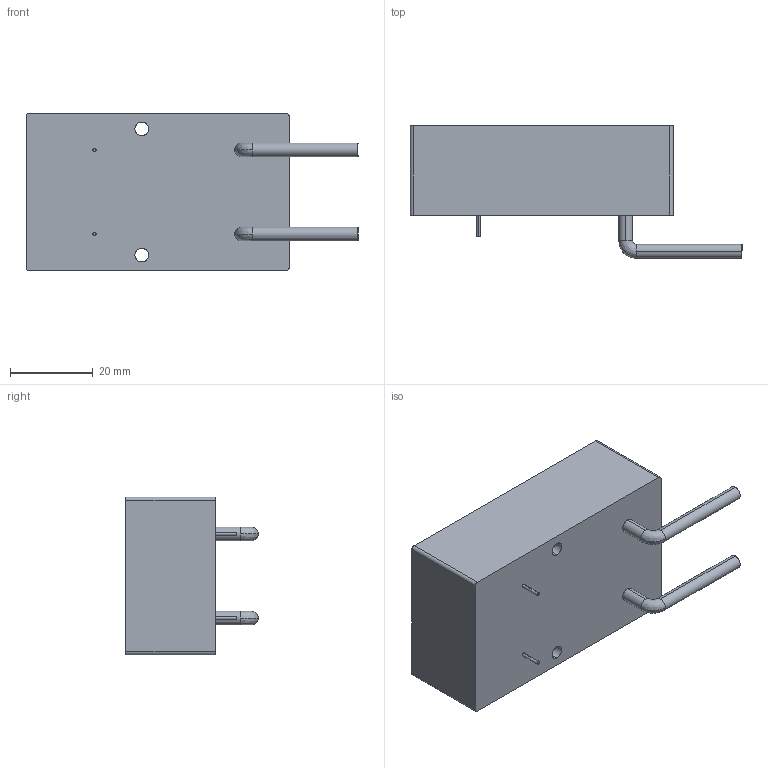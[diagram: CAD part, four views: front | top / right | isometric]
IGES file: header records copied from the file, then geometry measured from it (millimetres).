
Start section: SolidWorks IGES file using analytic representation for surfaces
Global section: file name: C:\Users\asmith\Desktop\~For Darol\Checked .igs Files\E-Series\E70-E80.IGS; native system: SolidWorks 2017; preprocessor: SolidWorks 2017; author: asmith; date: 171113.101955; units: inch
Bounding box: 80.14 x 31.93 x 38.1 mm (x, y, z)
Surface area: 10372.6 mm2 (no closed solid volume)
Topology: 0 solids, 0 shells, 34 faces, 488 edges, 488 vertices
Faces by surface type: revolution 20, bspline 14
